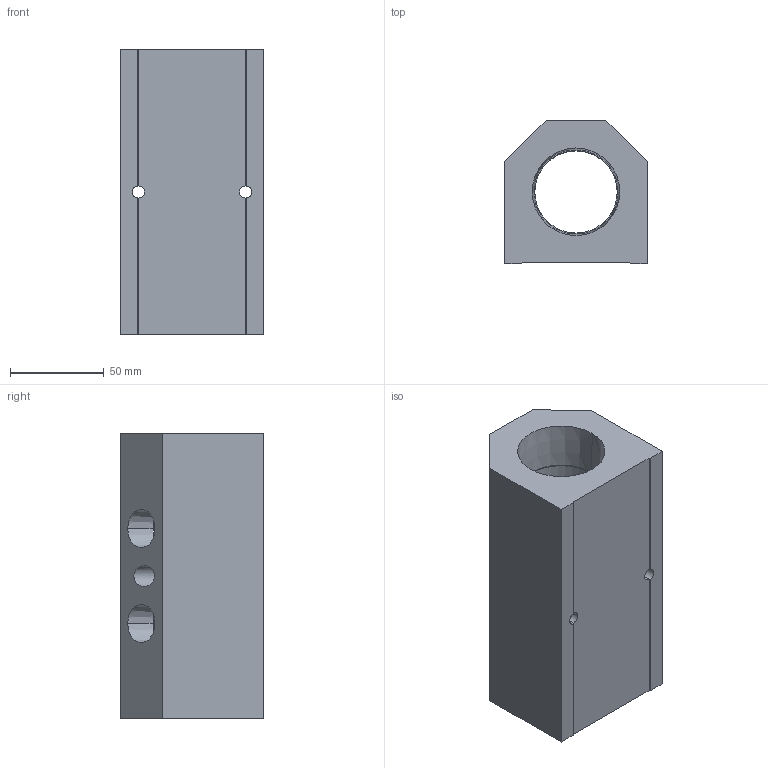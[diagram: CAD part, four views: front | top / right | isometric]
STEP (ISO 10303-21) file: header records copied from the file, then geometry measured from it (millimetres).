
FILE_DESCRIPTION (( 'STEP AP214' ), '1' );
FILE_NAME ('ALM2BD-N8N24-152B.step', '2022-02-07T09:29:06', ( '' ), ( '' ), 'SwSTEP 2.0', 'SolidWorks 2020', '' );
FILE_SCHEMA (( 'AUTOMOTIVE_DESIGN' ));
Length unit declared in the file: millimetre
Products named in the file (1): ALM2BD-N8N24-152B
Bounding box: 76.2 x 76.2 x 152 mm (x, y, z)
Volume: 539315.1 mm3; surface area: 75595.3 mm2
Topology: 1 solids, 1 shells, 300 faces, 788 edges, 524 vertices
Faces by surface type: plane 206, bspline 72, cone 12, cylinder 10
Entity records: 16850 total; most frequent: CARTESIAN_POINT 6991, ORIENTED_EDGE 1576, DIRECTION 1118, EDGE_CURVE 788, LINE 596, VECTOR 596, VERTEX_POINT 524, EDGE_LOOP 348
